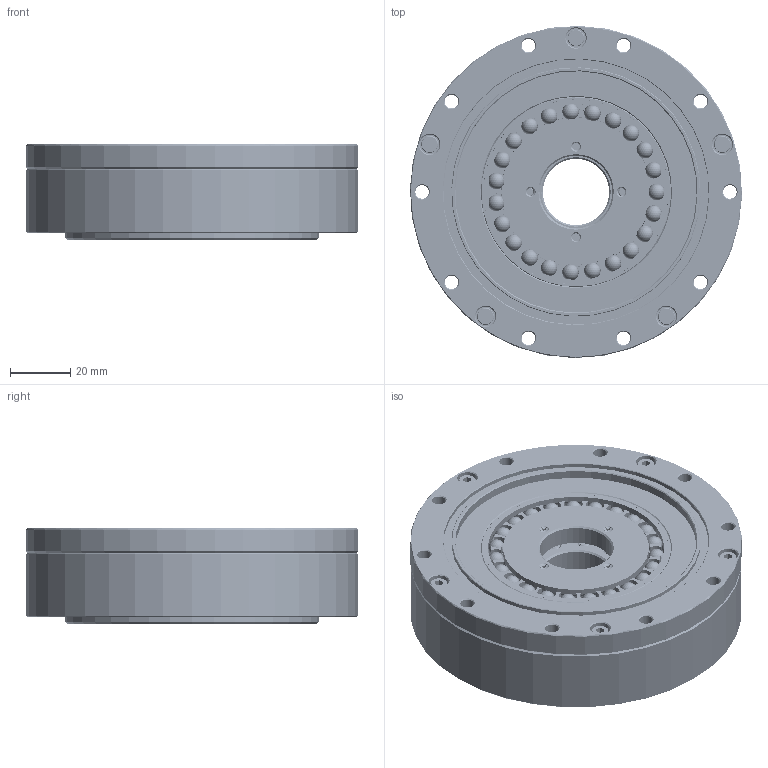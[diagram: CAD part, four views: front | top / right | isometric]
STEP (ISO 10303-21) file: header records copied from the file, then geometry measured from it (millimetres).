
FILE_DESCRIPTION(/* description */ (''),/* implementation_level */ '2;1');
FILE_NAME(/* name */ 'XBZ25成品图.prt.stp',/* time_stamp */ '2022-07-23T08:58:55+08:00',/* author */ (''),/* organization */ (''),/* preprocessor_version */ 'ST-DEVELOPER v16',/* originating_system */ 'SIEMENS PLM Software NX 10.0',/* authorisation */ '');
FILE_SCHEMA (('CONFIG_CONTROL_DESIGN'));
Products named in the file (13): 25-\X2\67D460278F74627F4FDD630167B6FF0865E568078D858584
FF09\X0\; M2.5X10; XBZ25-4-1-1销子; M4X14; M3X10; XBD25-3-1凸轮; G84945; XBZ25-1钢轮; XBZ25-2-1柔轮压板; XBZ25-2柔轮; XBZ25-4-1内芯; 25-柔性轴承（日标超薄）_MOD
EL; XBZ25成品图
Assembly tree (25 placements, depth 3):
  XBZ25成品图
    XBZ25-4-1内芯
    XBZ25-2柔轮
    XBZ25-2-1柔轮压板
    XBZ25-1钢轮
    25-柔性轴承（日标超薄）_MOD
EL
      25-\X2\67D460278F74627F4FDD630167B6FF0865E568078D858584
FF09\X0\
    G84945
    XBD25-3-1凸轮
    M3X10  x5
    M4X14  x10
    XBZ25-4-1-1销子
    M2.5X10
Bounding box: 110 x 110 x 31.5 mm (x, y, z)
Volume: 207015.8 mm3; surface area: 113690.2 mm2
Topology: 50 solids, 50 shells, 1136 faces, 2834 edges, 1819 vertices
Faces by surface type: plane 443, cylinder 252, cone 252, bspline 118, extrusion 34, sphere 23, torus 14
Full cylindrical faces by diameter (mm): 3 x1, 3.5 x5, 4.5 x40, 4.7 x1, 5 x1, 5.6 x5, 6.5 x5, 7.22 x10, 22 x1, 24 x4, 40 x2, 43.7 x1, 45.212 x1, 46.5 x1, 47.3 x1, 48.412 x2, 49.5 x1, 52 x1, 53 x1, 56.5 x1, 57.6 x1, 58.341 x2, 61.341 x2, 62.84 x1, 63 x1, 64.5 x1, 65.4 x1, 76.1 x1, 80 x1, 82.6 x1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
Entity records: 149567 total; most frequent: CARTESIAN_POINT 131075, DIRECTION 3179, ORIENTED_EDGE 3132, EDGE_CURVE 1566, AXIS2_PLACEMENT_3D 1391, EDGE_LOOP 1257, VERTEX_POINT 1204, FACE_BOUND 885
